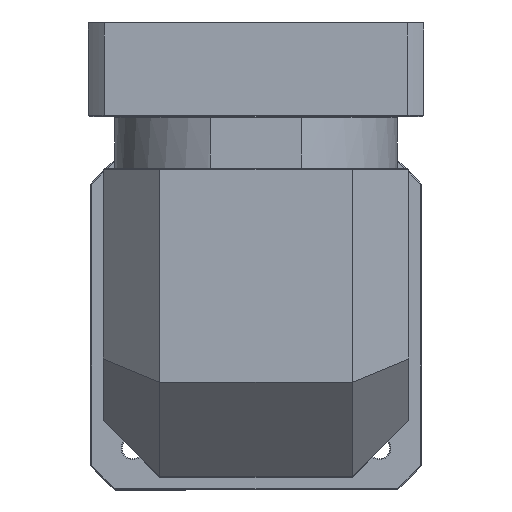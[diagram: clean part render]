
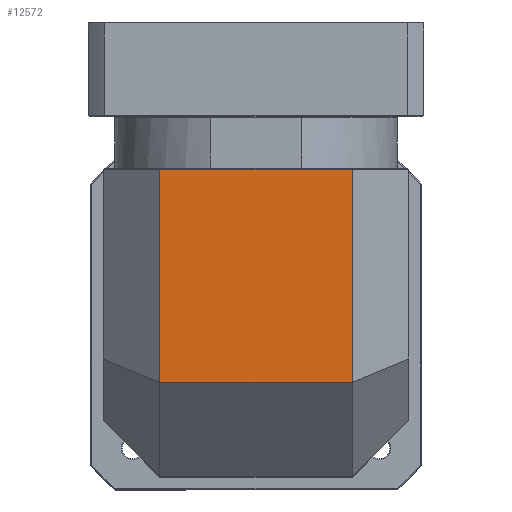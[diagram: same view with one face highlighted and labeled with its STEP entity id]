
A CAD part, top view. The second image highlights one B-rep face of the part: STEP entity #12572.
In plain terms, the highlighted planar face has unit normal (0, 0, 1).
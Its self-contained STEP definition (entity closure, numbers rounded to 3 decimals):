
#5179 = LINE ( 'NONE', #54788, #15882 ) ;
#8036 = CARTESIAN_POINT ( 'NONE',  ( -161.721, 92.225, 109.959 ) ) ;
#12572 = ADVANCED_FACE ( 'NONE', ( #59730 ), #115772, .F. ) ;
#13522 = DIRECTION ( 'NONE',  ( 0., 1., 0. ) ) ;
#15882 = VECTOR ( 'NONE', #64641, 1000. ) ;
#17495 = DIRECTION ( 'NONE',  ( 1., 0., 0. ) ) ;
#17692 = CARTESIAN_POINT ( 'NONE',  ( -161.721, 205.725, 109.959 ) ) ;
#17944 = DIRECTION ( 'NONE',  ( 0., 1., 0. ) ) ;
#20344 = LINE ( 'NONE', #22608, #69586 ) ;
#22608 = CARTESIAN_POINT ( 'NONE',  ( -131.721, 123.975, 109.959 ) ) ;
#25417 = LINE ( 'NONE', #8036, #127044 ) ;
#26542 = CARTESIAN_POINT ( 'NONE',  ( -29.721, 205.225, 109.959 ) ) ;
#27914 = VECTOR ( 'NONE', #17944, 1000. ) ;
#29506 = LINE ( 'NONE', #37370, #27914 ) ;
#30625 = ORIENTED_EDGE ( 'NONE', *, *, #73300, .T. ) ;
#33033 = ORIENTED_EDGE ( 'NONE', *, *, #45993, .T. ) ;
#35843 = DIRECTION ( 'NONE',  ( 0., 0., -1. ) ) ;
#37370 = CARTESIAN_POINT ( 'NONE',  ( -29.721, 205.725, 109.959 ) ) ;
#38143 = EDGE_CURVE ( 'NONE', #92051, #87434, #20344, .T. ) ;
#45993 = EDGE_CURVE ( 'NONE', #92051, #111200, #25417, .T. ) ;
#54788 = CARTESIAN_POINT ( 'NONE',  ( -161.721, 205.225, 109.959 ) ) ;
#59730 = FACE_OUTER_BOUND ( 'NONE', #124019, .T. ) ;
#61551 = AXIS2_PLACEMENT_3D ( 'NONE', #17692, #35843, #124446 ) ;
#64641 = DIRECTION ( 'NONE',  ( -1., 0., 0. ) ) ;
#69291 = ORIENTED_EDGE ( 'NONE', *, *, #85508, .T. ) ;
#69586 = VECTOR ( 'NONE', #13522, 1000. ) ;
#70975 = CARTESIAN_POINT ( 'NONE',  ( -29.721, 92.225, 109.959 ) ) ;
#73300 = EDGE_CURVE ( 'NONE', #119921, #87434, #5179, .T. ) ;
#85508 = EDGE_CURVE ( 'NONE', #111200, #119921, #29506, .T. ) ;
#87434 = VERTEX_POINT ( 'NONE', #124189 ) ;
#92051 = VERTEX_POINT ( 'NONE', #98408 ) ;
#98408 = CARTESIAN_POINT ( 'NONE',  ( -131.721, 92.225, 109.959 ) ) ;
#111200 = VERTEX_POINT ( 'NONE', #70975 ) ;
#115772 = PLANE ( 'NONE',  #61551 ) ;
#119921 = VERTEX_POINT ( 'NONE', #26542 ) ;
#120952 = ORIENTED_EDGE ( 'NONE', *, *, #38143, .F. ) ;
#124019 = EDGE_LOOP ( 'NONE', ( #69291, #30625, #120952, #33033 ) ) ;
#124189 = CARTESIAN_POINT ( 'NONE',  ( -131.721, 205.225, 109.959 ) ) ;
#124446 = DIRECTION ( 'NONE',  ( 1., 0., 0. ) ) ;
#127044 = VECTOR ( 'NONE', #17495, 1000. ) ;
